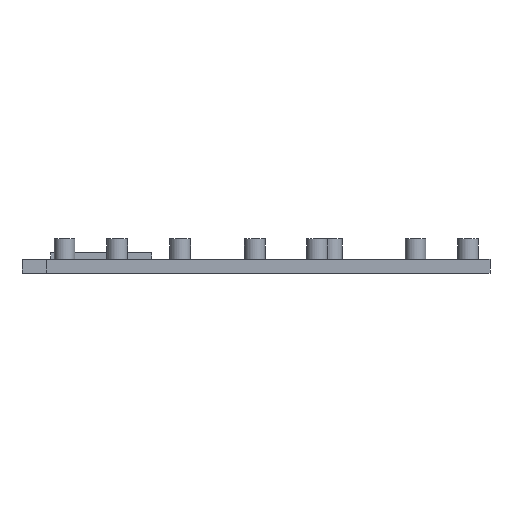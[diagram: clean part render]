
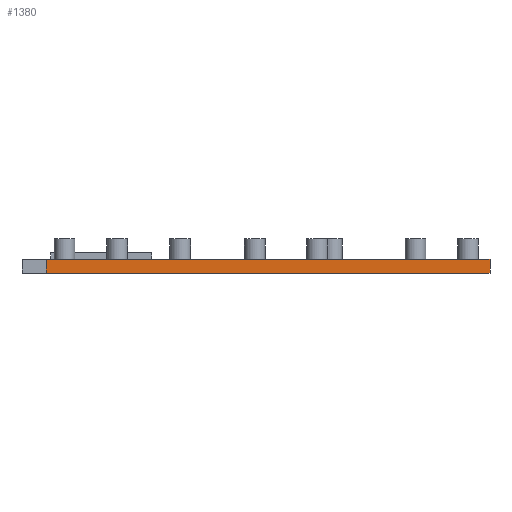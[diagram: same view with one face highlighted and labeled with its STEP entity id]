
A CAD part, front view. The second image highlights one B-rep face of the part: STEP entity #1380.
In plain terms, the highlighted planar face has unit normal (0, -1, 0).
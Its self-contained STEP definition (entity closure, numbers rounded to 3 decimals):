
#72 = PLANE('',#73);
#73 = AXIS2_PLACEMENT_3D('',#74,#75,#76);
#74 = CARTESIAN_POINT('',(-68.,-52.,52.));
#75 = DIRECTION('',(0.,0.,1.));
#76 = DIRECTION('',(1.,0.,0.));
#395 = VERTEX_POINT('',#396);
#396 = CARTESIAN_POINT('',(-61.,-52.,52.));
#409 = PLANE('',#410);
#410 = AXIS2_PLACEMENT_3D('',#411,#412,#413);
#411 = CARTESIAN_POINT('',(-61.,-55.,47.));
#412 = DIRECTION('',(1.,0.,0.));
#413 = DIRECTION('',(0.,0.,1.));
#420 = EDGE_CURVE('',#395,#421,#423,.T.);
#421 = VERTEX_POINT('',#422);
#422 = CARTESIAN_POINT('',(68.,-52.,52.));
#423 = SURFACE_CURVE('',#424,(#428,#435),.PCURVE_S1.);
#424 = LINE('',#425,#426);
#425 = CARTESIAN_POINT('',(-68.,-52.,52.));
#426 = VECTOR('',#427,1.);
#427 = DIRECTION('',(1.,0.,0.));
#428 = PCURVE('',#72,#429);
#429 = DEFINITIONAL_REPRESENTATION('',(#430),#434);
#430 = LINE('',#431,#432);
#431 = CARTESIAN_POINT('',(0.,0.));
#432 = VECTOR('',#433,1.);
#433 = DIRECTION('',(1.,0.));
#434 = ( GEOMETRIC_REPRESENTATION_CONTEXT(2) 
PARAMETRIC_REPRESENTATION_CONTEXT() REPRESENTATION_CONTEXT('2D SPACE',''
  ) );
#435 = PCURVE('',#436,#441);
#436 = PLANE('',#437);
#437 = AXIS2_PLACEMENT_3D('',#438,#439,#440);
#438 = CARTESIAN_POINT('',(-68.,-52.,48.));
#439 = DIRECTION('',(0.,1.,0.));
#440 = DIRECTION('',(0.,0.,1.));
#441 = DEFINITIONAL_REPRESENTATION('',(#442),#446);
#442 = LINE('',#443,#444);
#443 = CARTESIAN_POINT('',(4.,0.));
#444 = VECTOR('',#445,1.);
#445 = DIRECTION('',(0.,1.));
#446 = ( GEOMETRIC_REPRESENTATION_CONTEXT(2) 
PARAMETRIC_REPRESENTATION_CONTEXT() REPRESENTATION_CONTEXT('2D SPACE',''
  ) );
#464 = PLANE('',#465);
#465 = AXIS2_PLACEMENT_3D('',#466,#467,#468);
#466 = CARTESIAN_POINT('',(68.,-52.,48.));
#467 = DIRECTION('',(1.,0.,0.));
#468 = DIRECTION('',(0.,0.,1.));
#1250 = PLANE('',#1251);
#1251 = AXIS2_PLACEMENT_3D('',#1252,#1253,#1254);
#1252 = CARTESIAN_POINT('',(-68.,-52.,48.));
#1253 = DIRECTION('',(0.,0.,1.));
#1254 = DIRECTION('',(1.,0.,0.));
#1335 = EDGE_CURVE('',#1336,#421,#1338,.T.);
#1336 = VERTEX_POINT('',#1337);
#1337 = CARTESIAN_POINT('',(68.,-52.,48.));
#1338 = SURFACE_CURVE('',#1339,(#1343,#1350),.PCURVE_S1.);
#1339 = LINE('',#1340,#1341);
#1340 = CARTESIAN_POINT('',(68.,-52.,48.));
#1341 = VECTOR('',#1342,1.);
#1342 = DIRECTION('',(0.,0.,1.));
#1343 = PCURVE('',#464,#1344);
#1344 = DEFINITIONAL_REPRESENTATION('',(#1345),#1349);
#1345 = LINE('',#1346,#1347);
#1346 = CARTESIAN_POINT('',(0.,0.));
#1347 = VECTOR('',#1348,1.);
#1348 = DIRECTION('',(1.,0.));
#1349 = ( GEOMETRIC_REPRESENTATION_CONTEXT(2) 
PARAMETRIC_REPRESENTATION_CONTEXT() REPRESENTATION_CONTEXT('2D SPACE',''
  ) );
#1350 = PCURVE('',#436,#1351);
#1351 = DEFINITIONAL_REPRESENTATION('',(#1352),#1356);
#1352 = LINE('',#1353,#1354);
#1353 = CARTESIAN_POINT('',(0.,136.));
#1354 = VECTOR('',#1355,1.);
#1355 = DIRECTION('',(1.,0.));
#1356 = ( GEOMETRIC_REPRESENTATION_CONTEXT(2) 
PARAMETRIC_REPRESENTATION_CONTEXT() REPRESENTATION_CONTEXT('2D SPACE',''
  ) );
#1380 = ADVANCED_FACE('',(#1381),#436,.F.);
#1381 = FACE_BOUND('',#1382,.F.);
#1382 = EDGE_LOOP('',(#1383,#1406,#1425,#1426));
#1383 = ORIENTED_EDGE('',*,*,#1384,.F.);
#1384 = EDGE_CURVE('',#1385,#1336,#1387,.T.);
#1385 = VERTEX_POINT('',#1386);
#1386 = CARTESIAN_POINT('',(-61.,-52.,48.));
#1387 = SURFACE_CURVE('',#1388,(#1392,#1399),.PCURVE_S1.);
#1388 = LINE('',#1389,#1390);
#1389 = CARTESIAN_POINT('',(-68.,-52.,48.));
#1390 = VECTOR('',#1391,1.);
#1391 = DIRECTION('',(1.,0.,0.));
#1392 = PCURVE('',#436,#1393);
#1393 = DEFINITIONAL_REPRESENTATION('',(#1394),#1398);
#1394 = LINE('',#1395,#1396);
#1395 = CARTESIAN_POINT('',(0.,0.));
#1396 = VECTOR('',#1397,1.);
#1397 = DIRECTION('',(0.,1.));
#1398 = ( GEOMETRIC_REPRESENTATION_CONTEXT(2) 
PARAMETRIC_REPRESENTATION_CONTEXT() REPRESENTATION_CONTEXT('2D SPACE',''
  ) );
#1399 = PCURVE('',#1250,#1400);
#1400 = DEFINITIONAL_REPRESENTATION('',(#1401),#1405);
#1401 = LINE('',#1402,#1403);
#1402 = CARTESIAN_POINT('',(0.,0.));
#1403 = VECTOR('',#1404,1.);
#1404 = DIRECTION('',(1.,0.));
#1405 = ( GEOMETRIC_REPRESENTATION_CONTEXT(2) 
PARAMETRIC_REPRESENTATION_CONTEXT() REPRESENTATION_CONTEXT('2D SPACE',''
  ) );
#1406 = ORIENTED_EDGE('',*,*,#1407,.F.);
#1407 = EDGE_CURVE('',#395,#1385,#1408,.T.);
#1408 = SURFACE_CURVE('',#1409,(#1413,#1419),.PCURVE_S1.);
#1409 = LINE('',#1410,#1411);
#1410 = CARTESIAN_POINT('',(-61.,-52.,47.5));
#1411 = VECTOR('',#1412,1.);
#1412 = DIRECTION('',(0.,0.,-1.));
#1413 = PCURVE('',#436,#1414);
#1414 = DEFINITIONAL_REPRESENTATION('',(#1415),#1418);
#1415 = B_SPLINE_CURVE_WITH_KNOTS('',1,(#1416,#1417),.UNSPECIFIED.,.F.,
  .F.,(2,2),(-4.5,-0.5),.PIECEWISE_BEZIER_KNOTS.);
#1416 = CARTESIAN_POINT('',(4.,7.));
#1417 = CARTESIAN_POINT('',(0.,7.));
#1418 = ( GEOMETRIC_REPRESENTATION_CONTEXT(2) 
PARAMETRIC_REPRESENTATION_CONTEXT() REPRESENTATION_CONTEXT('2D SPACE',''
  ) );
#1419 = PCURVE('',#409,#1420);
#1420 = DEFINITIONAL_REPRESENTATION('',(#1421),#1424);
#1421 = B_SPLINE_CURVE_WITH_KNOTS('',1,(#1422,#1423),.UNSPECIFIED.,.F.,
  .F.,(2,2),(-4.5,-0.5),.PIECEWISE_BEZIER_KNOTS.);
#1422 = CARTESIAN_POINT('',(5.,-3.));
#1423 = CARTESIAN_POINT('',(1.,-3.));
#1424 = ( GEOMETRIC_REPRESENTATION_CONTEXT(2) 
PARAMETRIC_REPRESENTATION_CONTEXT() REPRESENTATION_CONTEXT('2D SPACE',''
  ) );
#1425 = ORIENTED_EDGE('',*,*,#420,.T.);
#1426 = ORIENTED_EDGE('',*,*,#1335,.F.);
